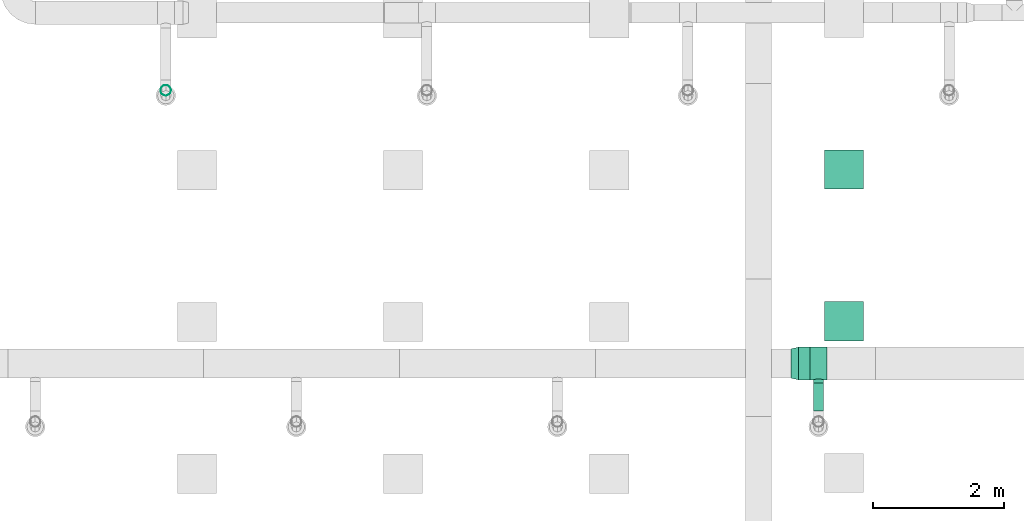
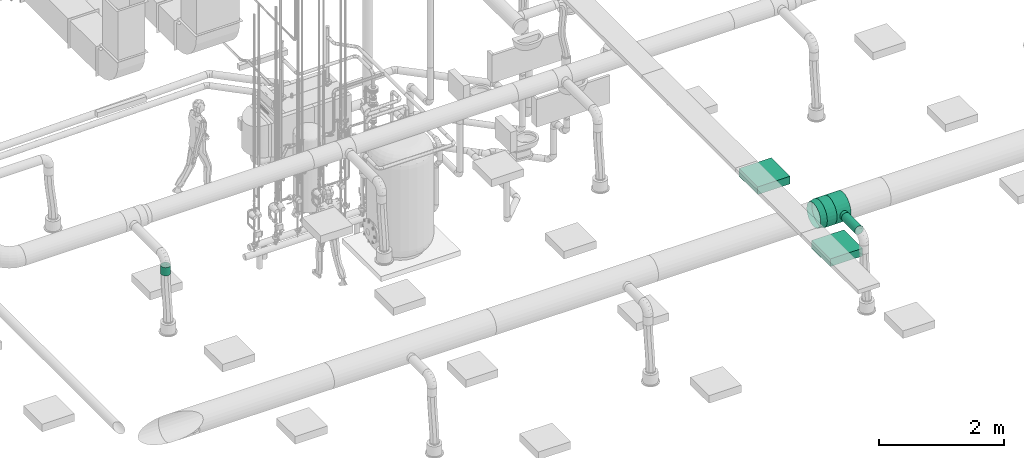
# One storey, part 72 of 374: 3 flow segments, 2 distribution elements, 2 flow fittings.
"""IFC2X3 building model written with IfcOpenShell, lengths in metres."""

from ifc_helpers import new_model, si_unit, direction, frame, frame_2d, origin, place, context, subcontext, project, spatial, rectangle, extrude, open_shell, surface_model, source, transform, mapped, element, save


model = new_model("IFC2X3")

# Units and contexts
model_context = context("Model", 3, precision=1e-05, world=origin(), true_north=direction((-0.4480736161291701, 0.8939966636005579)))
body_context = subcontext(model_context, "Body", "Model", "MODEL_VIEW")
ifc_project = project(units=[si_unit("LENGTHUNIT", "METRE"), si_unit("AREAUNIT", "SQUARE_METRE"), si_unit("VOLUMEUNIT", "CUBIC_METRE"), si_unit("PLANEANGLEUNIT", "RADIAN"), si_unit("THERMODYNAMICTEMPERATUREUNIT", "KELVIN"), si_unit("MASSUNIT", "GRAM", prefix="KILO"), si_unit("TIMEUNIT", "SECOND")], contexts=[model_context])

# Site, building, storey
site_placement = place(None, origin())
site = spatial("IfcSite", under=ifc_project, at=site_placement, Name="Site 1", CompositionType="ELEMENT")
building_placement = place(site_placement, origin())
building = spatial("IfcBuilding", under=site, at=building_placement, Name="Undefined", CompositionType="ELEMENT")
storey_placement = place(building_placement, origin())
storey = spatial("IfcBuildingStorey", under=building, at=storey_placement, Name="Rez de chauss\x8ee", CompositionType="ELEMENT", Elevation=0.0)

# Flow fittings
shared_shape_1 = source(origin(), body_context, "Body", "SurfaceModel", [
    surface_model("IfcFaceBasedSurfaceModel", [(0.0, 0.0652630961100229, -3.552713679e-15), (0.0, 0.0, 0.0), (0.2599999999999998, -7.105427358e-15, 0.0), (0.259999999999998, 0.06526309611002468, 0.0), (0.0, -0.06303931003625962, -0.01689133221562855), (0.259999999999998, -0.06303931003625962, -0.016891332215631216), (0.0, -0.11955880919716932, -0.049522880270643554), (0.259999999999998, -0.11955880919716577, -0.04952288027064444), (0.0, -0.1657067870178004, -0.09567085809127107), (0.259999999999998, -0.16570678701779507, -0.09567085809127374), (0.0, -0.1983383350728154, -0.15219035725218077), (0.259999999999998, -0.19833833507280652, -0.15219035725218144), (0.0, -0.2152296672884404, -0.2152296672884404), (0.259999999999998, -0.21522966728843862, -0.21522966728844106), (0.0, -0.2152296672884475, -0.28049276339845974), (0.259999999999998, -0.21522966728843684, -0.2804927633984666), (0.0, -0.1983383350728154, -0.3435320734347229), (0.259999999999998, -0.19833833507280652, -0.34353207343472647), (0.0, -0.1657067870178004, -0.4000515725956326), (0.259999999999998, -0.1657067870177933, -0.4000515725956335), (0.0, -0.11955880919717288, -0.44619955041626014), (0.259999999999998, -0.11955880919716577, -0.4461995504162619), (0.0, -0.06303931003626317, -0.47883109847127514), (0.259999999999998, -0.06303931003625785, -0.4788310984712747), (0.0, -7.105427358e-15, -0.49572243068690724), (0.259999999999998, 1.776356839e-15, -0.49572243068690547), (0.0, 0.0652630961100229, -0.4957224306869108), (0.259999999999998, 0.06526309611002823, -0.49572243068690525), (0.0, 0.12830240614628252, -0.47883109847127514), (0.259999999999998, 0.12830240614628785, -0.4788310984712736), (0.0, 0.18482190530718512, -0.4461995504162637), (0.259999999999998, 0.18482190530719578, -0.4461995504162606), (0.0, 0.2309698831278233, -0.4000515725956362), (0.259999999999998, 0.23096988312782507, -0.4000515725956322), (0.0, 0.26360143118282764, -0.34353207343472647), (0.259999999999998, 0.26360143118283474, -0.3435320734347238), (0.0, 0.2804927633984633, -0.2804927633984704), (0.259999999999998, 0.28049276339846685, -0.28049276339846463), (0.0, 0.28049276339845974, -0.2152296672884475), (0.259999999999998, 0.2804927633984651, -0.21522966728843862), (0.0, 0.2636014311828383, -0.15219035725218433), (0.259999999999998, 0.2636014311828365, -0.15219035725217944), (0.0, 0.2309698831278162, -0.09567085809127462), (0.259999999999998, 0.2309698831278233, -0.09567085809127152), (0.0, 0.18482190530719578, -0.049522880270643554), (0.259999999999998, 0.184821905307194, -0.04952288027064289), (0.0, 0.12830240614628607, -0.016891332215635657), (0.259999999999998, 0.12830240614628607, -0.01689133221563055), (0.21000000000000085, 0.28049276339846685, -0.28049276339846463), (0.2072740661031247, 0.276938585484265, -0.3009090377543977), (0.2072740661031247, 0.32736239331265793, -0.30754745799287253), (0.21000000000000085, 0.33006500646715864, -0.2870190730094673), (0.19928203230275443, 0.27207852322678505, -0.3197301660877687), (0.19928203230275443, 0.3248439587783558, -0.3266768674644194), (0.18656854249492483, 0.2666804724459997, -0.3357310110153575), (0.18656854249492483, 0.3226813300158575, -0.34310366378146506), (0.1700000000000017, 0.26174165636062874, -0.3479039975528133), (0.1700000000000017, 0.32102188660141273, -0.3557083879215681), (0.15070552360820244, 0.2582688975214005, -0.35550779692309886), (0.15070552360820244, 0.3199787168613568, -0.36363204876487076), (0.12999999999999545, 0.25701751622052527, -0.3580925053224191), (0.12999999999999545, 0.31962291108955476, -0.3663346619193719), (0.10929447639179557, 0.2582688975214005, -0.35550779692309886), (0.10929447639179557, 0.3199787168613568, -0.36363204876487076), (0.0899999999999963, 0.26174165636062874, -0.3479039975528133), (0.0899999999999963, 0.32102188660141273, -0.3557083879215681), (0.07343145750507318, 0.2666804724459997, -0.3357310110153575), (0.07343145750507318, 0.3226813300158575, -0.34310366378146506), (0.06071796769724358, 0.27207852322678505, -0.3197301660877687), (0.06071796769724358, 0.3248439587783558, -0.3266768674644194), (0.0527259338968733, 0.276938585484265, -0.3009090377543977), (0.0527259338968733, 0.32736239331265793, -0.30754745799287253), (0.04999999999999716, 0.28049276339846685, -0.28049276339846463), (0.04999999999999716, 0.33006500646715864, -0.2870190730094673), (0.0527259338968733, 0.2823438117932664, -0.2598522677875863), (0.0527259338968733, 0.33276761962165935, -0.26649068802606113), (0.06071796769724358, 0.28252061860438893, -0.24041457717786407), (0.06071796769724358, 0.3352860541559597, -0.24736127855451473), (0.07343145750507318, 0.28144782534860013, -0.22356182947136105), (0.07343145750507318, 0.337448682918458, -0.2309344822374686), (0.0899999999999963, 0.2798278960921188, -0.21052536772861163), (0.0899999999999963, 0.33910812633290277, -0.21832975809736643), (0.10929447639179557, 0.27844147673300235, -0.20228184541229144), (0.10929447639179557, 0.3401512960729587, -0.21040609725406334), (0.12999999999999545, 0.277901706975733, -0.19946132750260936), (0.12999999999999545, 0.3405071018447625, -0.20770348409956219), (0.15070552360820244, 0.27844147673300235, -0.20228184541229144), (0.15070552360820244, 0.3401512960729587, -0.21040609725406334), (0.1700000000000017, 0.2798278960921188, -0.21052536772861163), (0.1700000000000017, 0.33910812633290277, -0.21832975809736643), (0.18656854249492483, 0.28144782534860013, -0.22356182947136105), (0.18656854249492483, 0.337448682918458, -0.2309344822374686), (0.19928203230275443, 0.28252061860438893, -0.24041457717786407), (0.19928203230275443, 0.3352860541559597, -0.24736127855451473), (0.2072740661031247, 0.2823438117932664, -0.2598522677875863), (0.2072740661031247, 0.33276761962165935, -0.26649068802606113)], [open_shell([[[0, 1, 2, 3]], [[1, 4, 5, 2]], [[4, 6, 7, 5]], [[6, 8, 9, 7]], [[8, 10, 11, 9]], [[10, 12, 13, 11]], [[12, 14, 15, 13]], [[14, 16, 17, 15]], [[16, 18, 19, 17]], [[18, 20, 21, 19]], [[20, 22, 23, 21]], [[22, 24, 25, 23]], [[24, 26, 27, 25]], [[26, 28, 29, 27]], [[28, 30, 31, 29]], [[30, 32, 33, 31]], [[32, 34, 35, 33]], [[34, 36, 37, 35]], [[36, 38, 39, 37]], [[38, 40, 41, 39]], [[40, 42, 43, 41]], [[42, 44, 45, 43]], [[44, 46, 47, 45]], [[46, 0, 3, 47]], [[48, 49, 50, 51]], [[49, 52, 53, 50]], [[52, 54, 55, 53]], [[54, 56, 57, 55]], [[56, 58, 59, 57]], [[58, 60, 61, 59]], [[60, 62, 63, 61]], [[62, 64, 65, 63]], [[64, 66, 67, 65]], [[66, 68, 69, 67]], [[68, 70, 71, 69]], [[70, 72, 73, 71]], [[72, 74, 75, 73]], [[74, 76, 77, 75]], [[76, 78, 79, 77]], [[78, 80, 81, 79]], [[80, 82, 83, 81]], [[82, 84, 85, 83]], [[84, 86, 87, 85]], [[86, 88, 89, 87]], [[88, 90, 91, 89]], [[90, 92, 93, 91]], [[92, 94, 95, 93]], [[94, 48, 51, 95]]])]),
])
flow_fitting_1_placement = place(storey_placement, origin())
element("IfcFlowFitting", 1, at=flow_fitting_1_placement, inside=storey, Name="Pièce en té 90°", ObjectType="Pièce en té 90°", context=body_context, shape_type="MappedRepresentation", body=[
    mapped(shared_shape_1, transform((58.4200014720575, 2.916002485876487, 4.041481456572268), x_axis=(-1.0, 0.0, 0.0), y_axis=(7.266545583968e-12, -0.9914448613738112, 0.13052619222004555), z_axis=(0.0, 0.13052619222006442, 0.9914448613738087))),
])
shared_shape_2 = source(origin(), body_context, "Body", "SurfaceModel", [
    surface_model("IfcFaceBasedSurfaceModel", [(0.0019043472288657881, 0.0652353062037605, 4.4408921e-16), (0.0, 0.0, 0.0), (0.11183022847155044, 1.776356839e-15, 3.552713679e-15), (0.11354414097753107, 0.058711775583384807, 2.220446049e-15), (0.0019043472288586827, -0.06312175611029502, -0.01647085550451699), (0.11354414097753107, -0.05680958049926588, -0.014823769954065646), (0.0074876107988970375, -0.11982831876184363, -0.04829010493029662), (0.11856907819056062, -0.10784548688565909, -0.04346109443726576), (0.016369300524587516, -0.16625522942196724, -0.09328931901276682), (0.1265625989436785, -0.1496297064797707, -0.0839603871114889), (0.027944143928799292, -0.1992385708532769, -0.1484018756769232), (0.13697995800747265, -0.17931471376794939, -0.13356168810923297), (0.04142333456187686, -0.21653058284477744, -0.20987194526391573), (0.14911122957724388, -0.19487752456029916, -0.18888475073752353), (0.055888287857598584, -0.21695284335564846, -0.2735104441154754), (0.1621296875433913, -0.19525755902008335, -0.2461593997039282), (0.07035324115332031, -0.20047657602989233, -0.3349805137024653), (0.17514814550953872, -0.18042891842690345, -0.301482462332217), (0.08383243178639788, -0.16822461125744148, -0.39009307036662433), (0.18727941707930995, -0.15140215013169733, -0.35108376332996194), (0.09540727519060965, -0.122394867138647, -0.43509228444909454), (0.1976967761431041, -0.11015538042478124, -0.3915830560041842), (0.10428896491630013, -0.06611056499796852, -0.4669115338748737), (0.20569029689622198, -0.059499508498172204, -0.42022038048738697), (0.10987222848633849, -0.0032073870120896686, -0.4833823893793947), (0.21071523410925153, -0.0028866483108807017, -0.4350441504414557), (0.11177657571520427, 0.06202791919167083, -0.4833823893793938), (0.2124291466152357, 0.05582512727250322, -0.43504415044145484), (0.10987222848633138, 0.12514967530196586, -0.46691153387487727), (0.21071523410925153, 0.11263470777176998, -0.4202203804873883), (0.10428896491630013, 0.18185623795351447, -0.4350922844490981), (0.20569029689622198, 0.1636706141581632, -0.3915830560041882), (0.09540727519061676, 0.22828314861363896, -0.39009307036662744), (0.1976967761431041, 0.2054548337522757, -0.35108376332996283), (0.08383243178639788, 0.2612664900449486, -0.33498051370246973), (0.18727941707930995, 0.2351398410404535, -0.30148246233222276), (0.0703532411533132, 0.2785585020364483, -0.27351044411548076), (0.17514814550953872, 0.25070265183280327, -0.2461593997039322), (0.055888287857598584, 0.2789807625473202, -0.2098719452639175), (0.1621296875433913, 0.25108268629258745, -0.18888475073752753), (0.04142333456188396, 0.26250449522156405, -0.14840187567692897), (0.14911122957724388, 0.23625404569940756, -0.13356168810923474), (0.027944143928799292, 0.2302525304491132, -0.09328931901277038), (0.13697995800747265, 0.20722727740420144, -0.08396038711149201), (0.01636930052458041, 0.18442278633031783, -0.048290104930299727), (0.1265625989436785, 0.16598050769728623, -0.043461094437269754), (0.007487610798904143, 0.12813848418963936, -0.01647085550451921), (0.11856907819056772, 0.11532463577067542, -0.014823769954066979)], [open_shell([[[0, 1, 2, 3]], [[1, 4, 5, 2]], [[4, 6, 7, 5]], [[6, 8, 9, 7]], [[8, 10, 11, 9]], [[10, 12, 13, 11]], [[12, 14, 15, 13]], [[14, 16, 17, 15]], [[16, 18, 19, 17]], [[18, 20, 21, 19]], [[20, 22, 23, 21]], [[22, 24, 25, 23]], [[24, 26, 27, 25]], [[26, 28, 29, 27]], [[28, 30, 31, 29]], [[30, 32, 33, 31]], [[32, 34, 35, 33]], [[34, 36, 37, 35]], [[36, 38, 39, 37]], [[38, 40, 41, 39]], [[40, 42, 43, 41]], [[42, 44, 45, 43]], [[44, 46, 47, 45]], [[46, 0, 3, 47]]])]),
])
flow_fitting_2_placement = place(storey_placement, origin())
element("IfcFlowFitting", 2, at=flow_fitting_2_placement, inside=storey, Name="Réduction conique", ObjectType="Réduction conique", context=body_context, shape_type="MappedRepresentation", body=[
    mapped(shared_shape_2, transform((57.9800014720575, 3.0927791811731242, 3.7352952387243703), x_axis=(-0.9746917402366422, -0.21593576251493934, 0.05785981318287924), y_axis=(0.028453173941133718, 0.1368853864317, 0.9901781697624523), z_axis=(-0.2217350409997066, 0.966764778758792, -0.12727699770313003))),
])

# Flow segments
shared_shape_3 = source(origin(), body_context, "Body", "SurfaceModel", [
    surface_model("IfcFaceBasedSurfaceModel", [(0.0, 0.0652630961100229, -3.552713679e-15), (0.0, 0.0, 0.0), (0.17999999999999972, 0.0, 4.4408921e-16), (0.17999999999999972, 0.06526309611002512, 4.4408921e-16), (0.0, -0.06303931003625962, -0.01689133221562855), (0.17999999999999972, -0.06303931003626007, -0.016891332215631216), (0.0, -0.11955880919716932, -0.049522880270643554), (0.17999999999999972, -0.1195588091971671, -0.04952288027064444), (0.0, -0.1657067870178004, -0.09567085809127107), (0.17999999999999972, -0.16570678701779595, -0.09567085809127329), (0.0, -0.1983383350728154, -0.15219035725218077), (0.17999999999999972, -0.19833833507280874, -0.15219035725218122), (0.0, -0.2152296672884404, -0.2152296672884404), (0.17999999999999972, -0.21522966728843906, -0.21522966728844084), (0.0, -0.2152296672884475, -0.28049276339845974), (0.17999999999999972, -0.21522966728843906, -0.2804927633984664), (0.0, -0.1983383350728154, -0.3435320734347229), (0.17999999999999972, -0.19833833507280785, -0.343532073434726), (0.0, -0.1657067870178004, -0.4000515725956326), (0.17999999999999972, -0.16570678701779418, -0.40005157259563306), (0.0, -0.11955880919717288, -0.44619955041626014), (0.17999999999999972, -0.11955880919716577, -0.4461995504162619), (0.0, -0.06303931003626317, -0.47883109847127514), (0.17999999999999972, -0.0630393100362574, -0.4788310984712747), (0.0, -7.105427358e-15, -0.49572243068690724), (0.17999999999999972, 1.776356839e-15, -0.495722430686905), (0.0, 0.0652630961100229, -0.4957224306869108), (0.17999999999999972, 0.06526309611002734, -0.495722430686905), (0.0, 0.12830240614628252, -0.47883109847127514), (0.17999999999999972, 0.12830240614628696, -0.4788310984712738), (0.0, 0.18482190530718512, -0.4461995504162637), (0.17999999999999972, 0.18482190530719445, -0.44619955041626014), (0.0, 0.2309698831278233, -0.4000515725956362), (0.17999999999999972, 0.2309698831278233, -0.40005157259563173), (0.0, 0.26360143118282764, -0.34353207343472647), (0.17999999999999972, 0.2636014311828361, -0.3435320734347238), (0.0, 0.2804927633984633, -0.2804927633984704), (0.17999999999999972, 0.2804927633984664, -0.2804927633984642), (0.0, 0.28049276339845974, -0.2152296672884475), (0.17999999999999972, 0.2804927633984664, -0.21522966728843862), (0.0, 0.2636014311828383, -0.15219035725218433), (0.17999999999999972, 0.2636014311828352, -0.152190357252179), (0.0, 0.2309698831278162, -0.09567085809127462), (0.17999999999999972, 0.23096988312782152, -0.09567085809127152), (0.0, 0.18482190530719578, -0.049522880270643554), (0.17999999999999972, 0.18482190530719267, -0.04952288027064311), (0.0, 0.12830240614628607, -0.016891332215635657), (0.17999999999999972, 0.12830240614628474, -0.016891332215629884)], [open_shell([[[0, 1, 2, 3]], [[1, 4, 5, 2]], [[4, 6, 7, 5]], [[6, 8, 9, 7]], [[8, 10, 11, 9]], [[10, 12, 13, 11]], [[12, 14, 15, 13]], [[14, 16, 17, 15]], [[16, 18, 19, 17]], [[18, 20, 21, 19]], [[20, 22, 23, 21]], [[22, 24, 25, 23]], [[24, 26, 27, 25]], [[26, 28, 29, 27]], [[28, 30, 31, 29]], [[30, 32, 33, 31]], [[32, 34, 35, 33]], [[34, 36, 37, 35]], [[36, 38, 39, 37]], [[38, 40, 41, 39]], [[40, 42, 43, 41]], [[42, 44, 45, 43]], [[44, 46, 47, 45]], [[46, 0, 3, 47]]])]),
])
flow_segment_1_placement = place(storey_placement, origin())
element("IfcFlowSegment", 3, at=flow_segment_1_placement, inside=storey, Name="Manchon", ObjectType="Manchon", context=body_context, shape_type="MappedRepresentation", body=[
    mapped(shared_shape_3, transform((58.1600014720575, 2.916002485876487, 4.041481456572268), x_axis=(-1.0, 0.0, 0.0), y_axis=(7.266545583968e-12, -0.9914448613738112, 0.13052619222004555), z_axis=(0.0, 0.13052619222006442, 0.9914448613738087))),
])
shared_shape_4 = source(origin(), body_context, "Body", "SurfaceModel", [
    surface_model("IfcFaceBasedSurfaceModel", [(0.0, 0.020884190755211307, 0.0), (0.0, 0.0, 0.0), (0.16000000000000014, 0.0, -4.4408921e-16), (0.16000000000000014, 0.0208841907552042, -4.4408921e-16), (0.0, -0.020172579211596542, -0.005405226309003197), (0.16000000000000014, -0.020172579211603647, -0.005405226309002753), (0.0, -0.03825881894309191, -0.015847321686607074), (0.16000000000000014, -0.03825881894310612, -0.015847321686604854), (0.0, -0.05302617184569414, -0.0306146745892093), (0.16000000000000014, -0.05302617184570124, -0.03061467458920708), (0.0, -0.06346826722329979, -0.04870091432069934), (0.16000000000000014, -0.0634682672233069, -0.04870091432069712), (0.0, -0.06887349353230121, -0.06887349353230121), (0.16000000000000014, -0.06887349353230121, -0.06887349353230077), (0.0, -0.06887349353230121, -0.08975768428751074), (0.16000000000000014, -0.06887349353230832, -0.08975768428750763), (0.0, -0.06346826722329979, -0.10993026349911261), (0.16000000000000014, -0.0634682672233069, -0.10993026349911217), (0.0, -0.05302617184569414, -0.12801650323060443), (0.16000000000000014, -0.05302617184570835, -0.1280165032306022), (0.0, -0.038258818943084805, -0.14278385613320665), (0.16000000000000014, -0.03825881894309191, -0.14278385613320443), (0.0, -0.020172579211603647, -0.15322595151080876), (0.16000000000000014, -0.020172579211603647, -0.1532259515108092), (0.0, 7.105427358e-15, -0.15863117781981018), (0.16000000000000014, -7.105427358e-15, -0.15863117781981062), (0.0, 0.020884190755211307, -0.15863117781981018), (0.16000000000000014, 0.0208841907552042, -0.15863117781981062), (0.0, 0.04105676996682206, -0.15322595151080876), (0.16000000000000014, 0.04105676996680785, -0.1532259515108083), (0.0, 0.05914300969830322, -0.1427838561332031), (0.16000000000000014, 0.05914300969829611, -0.14278385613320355), (0.0, 0.07391036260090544, -0.12801650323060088), (0.16000000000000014, 0.07391036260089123, -0.1280165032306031), (0.0, 0.0843524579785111, -0.10993026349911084), (0.16000000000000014, 0.08435245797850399, -0.10993026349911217), (0.0, 0.08975768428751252, -0.08975768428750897), (0.16000000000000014, 0.08975768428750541, -0.08975768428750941), (0.0, 0.08975768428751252, -0.06887349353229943), (0.16000000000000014, 0.08975768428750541, -0.06887349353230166), (0.0, 0.0843524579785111, -0.048700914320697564), (0.16000000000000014, 0.08435245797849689, -0.04870091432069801), (0.0, 0.07391036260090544, -0.030614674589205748), (0.16000000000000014, 0.07391036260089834, -0.03061467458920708), (0.0, 0.05914300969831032, -0.015847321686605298), (0.16000000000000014, 0.05914300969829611, -0.01584732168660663), (0.0, 0.04105676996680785, -0.005405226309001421), (0.16000000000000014, 0.04105676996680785, -0.005405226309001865)], [open_shell([[[0, 1, 2, 3]], [[1, 4, 5, 2]], [[4, 6, 7, 5]], [[6, 8, 9, 7]], [[8, 10, 11, 9]], [[10, 12, 13, 11]], [[12, 14, 15, 13]], [[14, 16, 17, 15]], [[16, 18, 19, 17]], [[18, 20, 21, 19]], [[20, 22, 23, 21]], [[22, 24, 25, 23]], [[24, 26, 27, 25]], [[26, 28, 29, 27]], [[28, 30, 31, 29]], [[30, 32, 33, 31]], [[32, 34, 35, 33]], [[34, 36, 37, 35]], [[36, 38, 39, 37]], [[38, 40, 41, 39]], [[40, 42, 43, 41]], [[42, 44, 45, 43]], [[44, 46, 47, 45]], [[46, 0, 3, 47]]])]),
])
flow_segment_2_placement = place(storey_placement, origin())
element("IfcFlowSegment", 4, at=flow_segment_2_placement, inside=storey, Name="Tube", ObjectType="Tube", context=body_context, shape_type="MappedRepresentation", body=[
    mapped(shared_shape_4, transform((48.269295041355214, 7.112272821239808, 3.4800000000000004), x_axis=(0.0, 0.0, 1.0), y_axis=(0.9914448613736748, 0.13052619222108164, 0.0), z_axis=(-0.13052619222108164, 0.9914448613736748, 0.0))),
])
shared_shape_5 = source(origin(), body_context, "Body", "SurfaceModel", [
    surface_model("IfcFaceBasedSurfaceModel", [(0.0, 0.020884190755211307, 0.0), (0.0, 0.0, 0.0), (0.4312979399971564, -7.105427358e-15, -8.8817842e-16), (0.4312979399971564, 0.0208841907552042, -8.8817842e-16), (0.0, -0.020172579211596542, -0.005405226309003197), (0.4312979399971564, -0.020172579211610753, -0.005405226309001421), (0.0, -0.03825881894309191, -0.015847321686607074), (0.4312979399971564, -0.03825881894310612, -0.015847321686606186), (0.0, -0.05302617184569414, -0.0306146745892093), (0.4312979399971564, -0.05302617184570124, -0.030614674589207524), (0.0, -0.06346826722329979, -0.04870091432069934), (0.4312979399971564, -0.0634682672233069, -0.04870091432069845), (0.0, -0.06887349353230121, -0.06887349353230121), (0.4312979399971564, -0.06887349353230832, -0.06887349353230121), (0.0, -0.06887349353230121, -0.08975768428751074), (0.4312979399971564, -0.06887349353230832, -0.08975768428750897), (0.0, -0.06346826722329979, -0.10993026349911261), (0.4312979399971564, -0.0634682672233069, -0.10993026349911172), (0.0, -0.05302617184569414, -0.12801650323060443), (0.4312979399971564, -0.05302617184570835, -0.12801650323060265), (0.0, -0.038258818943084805, -0.14278385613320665), (0.4312979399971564, -0.038258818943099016, -0.1427838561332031), (0.0, -0.020172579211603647, -0.15322595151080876), (0.4312979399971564, -0.020172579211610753, -0.15322595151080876), (0.0, 7.105427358e-15, -0.15863117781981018), (0.4312979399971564, -7.105427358e-15, -0.15863117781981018), (0.0, 0.020884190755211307, -0.15863117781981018), (0.4312979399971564, 0.0208841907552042, -0.15863117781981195), (0.0, 0.04105676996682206, -0.15322595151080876), (0.4312979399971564, 0.041056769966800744, -0.15322595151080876), (0.0, 0.05914300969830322, -0.1427838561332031), (0.4312979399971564, 0.05914300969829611, -0.14278385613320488), (0.0, 0.07391036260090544, -0.12801650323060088), (0.4312979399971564, 0.07391036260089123, -0.12801650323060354), (0.0, 0.0843524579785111, -0.10993026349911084), (0.4312979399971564, 0.08435245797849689, -0.10993026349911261), (0.0, 0.08975768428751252, -0.08975768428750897), (0.4312979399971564, 0.08975768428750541, -0.08975768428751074), (0.0, 0.08975768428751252, -0.06887349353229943), (0.4312979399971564, 0.08975768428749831, -0.0688734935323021), (0.0, 0.0843524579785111, -0.048700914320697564), (0.4312979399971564, 0.08435245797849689, -0.04870091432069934), (0.0, 0.07391036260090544, -0.030614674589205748), (0.4312979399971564, 0.07391036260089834, -0.030614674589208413), (0.0, 0.05914300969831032, -0.015847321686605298), (0.4312979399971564, 0.059143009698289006, -0.015847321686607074), (0.0, 0.04105676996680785, -0.005405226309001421), (0.4312979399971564, 0.04105676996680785, -0.005405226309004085)], [open_shell([[[0, 1, 2, 3]], [[1, 4, 5, 2]], [[4, 6, 7, 5]], [[6, 8, 9, 7]], [[8, 10, 11, 9]], [[10, 12, 13, 11]], [[12, 14, 15, 13]], [[14, 16, 17, 15]], [[16, 18, 19, 17]], [[18, 20, 21, 19]], [[20, 22, 23, 21]], [[22, 24, 25, 23]], [[24, 26, 27, 25]], [[26, 28, 29, 27]], [[28, 30, 31, 29]], [[30, 32, 33, 31]], [[32, 34, 35, 33]], [[34, 36, 37, 35]], [[36, 38, 39, 37]], [[38, 40, 41, 39]], [[40, 42, 43, 41]], [[42, 44, 45, 43]], [[44, 46, 47, 45]], [[46, 0, 3, 47]]])]),
])
flow_segment_3_placement = place(storey_placement, origin())
element("IfcFlowSegment", 5, at=flow_segment_3_placement, inside=storey, Name="Tube", ObjectType="Tube", context=body_context, shape_type="MappedRepresentation", body=[
    mapped(shared_shape_5, transform((58.2692959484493, 2.551297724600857, 3.877274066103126), x_axis=(0.0, -1.0, 0.0), y_axis=(0.9914448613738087, 0.0, 0.13052619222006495), z_axis=(-0.13052619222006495, 0.0, 0.9914448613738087))),
])

# Distribution elements
distribution_element_1_placement = place(storey_placement, origin())
element("IfcDistributionElement", 6, at=distribution_element_1_placement, inside=storey, Name="Decken-Rechteckleuchte mit Rahmen AP", ObjectType="Decken-Rechteckleuchte mit Rahmen AP", context=body_context, shape_type="SweptSolid", body=[
    extrude(rectangle(XDim=0.6000000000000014, YDim=0.6000000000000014, at=frame_2d((3.552713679e-15, 0.0), x_axis=(0.0, 1.0))), frame((58.67818011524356, 3.4978411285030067, 2.5500000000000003), z_axis=(0.0, 0.0, -1.0), x_axis=(1.0, 0.0, 0.0)), (0.0, 0.0, 1.0), 0.15),
])
distribution_element_2_placement = place(storey_placement, origin())
element("IfcDistributionElement", 7, at=distribution_element_2_placement, inside=storey, Name="Decken-Rechteckleuchte mit Rahmen AP", ObjectType="Decken-Rechteckleuchte mit Rahmen AP", context=body_context, shape_type="SweptSolid", body=[
    extrude(rectangle(XDim=0.6000000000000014, YDim=0.6000000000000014, at=frame_2d((3.552713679e-15, 0.0), x_axis=(0.0, 1.0))), frame((58.67818011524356, 5.822841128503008, 2.5500000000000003), z_axis=(0.0, 0.0, -1.0), x_axis=(1.0, 0.0, 0.0)), (0.0, 0.0, 1.0), 0.15),
])

save(model, "model.ifc")
